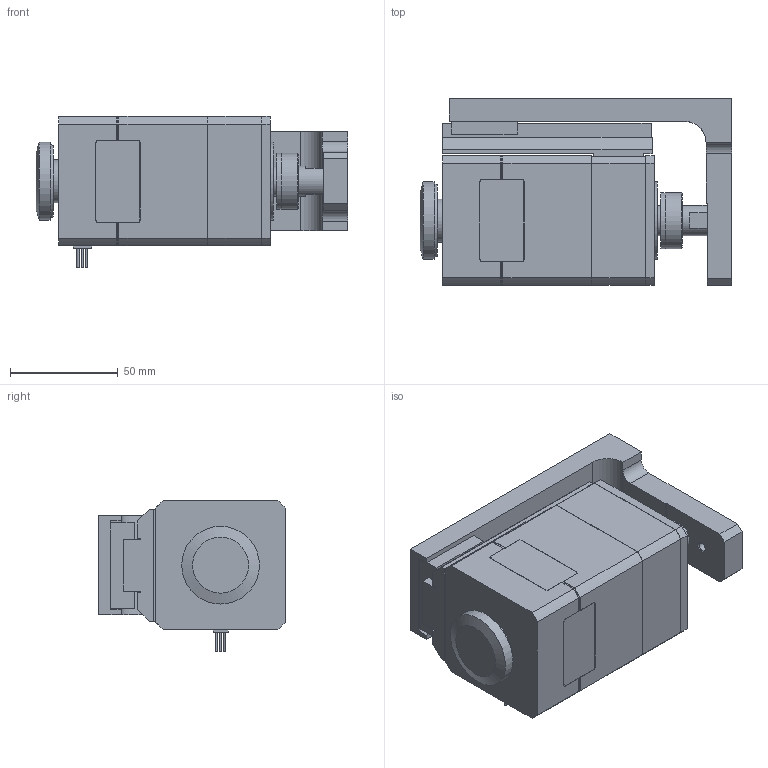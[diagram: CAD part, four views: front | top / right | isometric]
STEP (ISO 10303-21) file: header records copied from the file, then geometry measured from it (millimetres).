
FILE_DESCRIPTION( ( 'STEP AP203' ), '1' );
FILE_NAME( '//S38133/base/local/Torisetsu/WEB2CAD/WORK/DRL2/STEP/DRL60G-05A4PN-KB_0_.stp', ' ', ( ' ' ), ( ' ' ), 'PSStep 15.0.47', 'PARTsolutions', ' ' );
FILE_SCHEMA( ( 'CONFIG_CONTROL_DESIGN' ) );
Length unit declared in the file: millimetre
Products named in the file (4): DRL60G-05A4PN-KB(0); HI_DRL60PG-05N(DC)-Body; HI_DRL60AG-05(P)-Rod; HI_DRL60-Guide
Assembly tree (3 placements, depth 2):
  DRL60G-05A4PN-KB(0)
    HI_DRL60PG-05N(DC)-Body
    HI_DRL60AG-05(P)-Rod
    HI_DRL60-Guide
Bounding box: 144.5 x 86.5 x 70 mm (x, y, z)
Volume: 509460.6 mm3; surface area: 78153.1 mm2
Topology: 3 solids, 3 shells, 379 faces, 978 edges, 638 vertices
Faces by surface type: plane 257, cylinder 83, cone 23, torus 8, bspline 7, sphere 1
Full cylindrical faces by diameter (mm): 1 x5, 4.134 x10, 5.4 x2, 5.5 x6, 6.3 x4, 6.5 x4, 6.647 x1, 9 x1, 12.8 x1, 13 x1, 14 x3, 20 x1, 25.9 x1, 26 x2, 36 x2
Entity records: 11245 total; most frequent: CARTESIAN_POINT 2089, DIRECTION 1829, ORIENTED_EDGE 1762, EDGE_CURVE 881, LINE 685, VECTOR 685, VERTEX_POINT 636, AXIS2_PLACEMENT_3D 572
